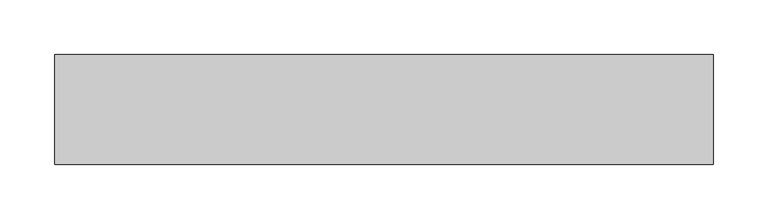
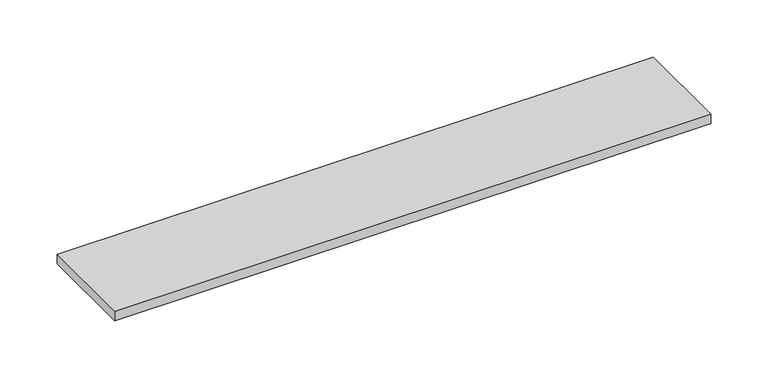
"""IFC4 building model written with IfcOpenShell, lengths in millimetres: proxy geometry, Bodenmarkierung : Belagsmarkierung."""

from ifc_helpers import new_model, si_unit, origin, origin_with_axes, place, context, project, spatial, polyline, outline, extrude, source, transform, mapped, element, save


def entourage_9fdb578f(model_context):
    return source(origin(), model_context, "Body", "SweptSolid", [
        extrude(outline(polyline([(300.0, -50.0), (-300.0, -50.0), (-300.0, 50.0), (300.0, 50.0), (300.0, -50.0)])), origin_with_axes(), (0.0, 0.0, 1.0), 10.0),
    ])


if __name__ == "__main__":
    model = new_model("IFC4")
    model_context = context("Model", 3, world=origin())
    ifc_project = project(units=[si_unit("LENGTHUNIT", "METRE", prefix="MILLI")], contexts=[model_context])
    site = spatial("IfcSite", under=ifc_project)
    building = spatial("IfcBuilding", under=site)
    placement = place(None, origin())
    entourage_shape = entourage_9fdb578f(model_context)
    element("IfcBuildingElementProxy", 1, Name="Bodenmarkierung : Belagsmarkierung", ObjectType="Bodenmarkierung : Belagsmarkierung", at=placement, inside=building, context=model_context, shape_type="MappedRepresentation", body=[
        mapped(entourage_shape, transform((0.0, 0.0, 0.0), x_axis=(1.0, 0.0, 0.0), y_axis=(0.0, 1.0, 0.0), z_axis=(0.0, 0.0, 1.0))),
    ])
    save(model, "model.ifc")
